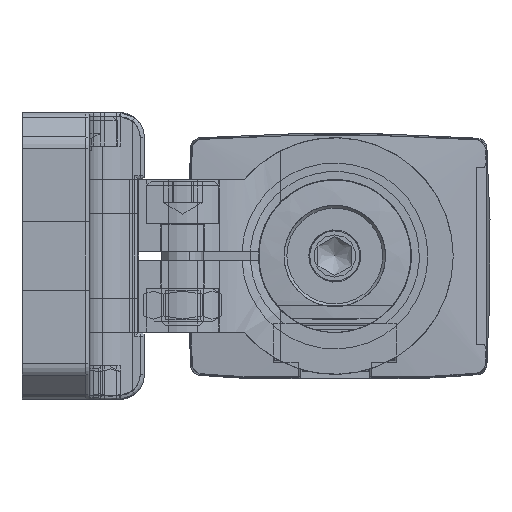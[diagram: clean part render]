
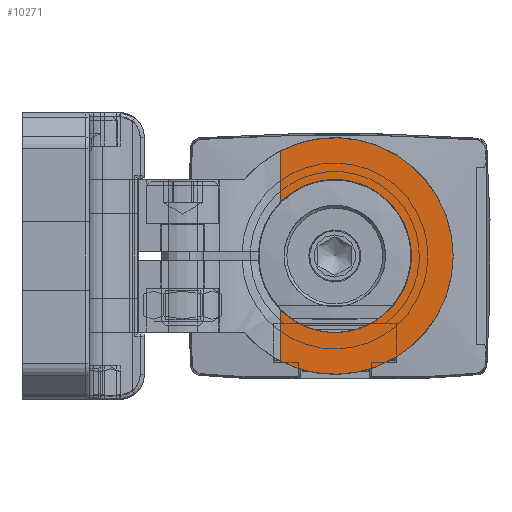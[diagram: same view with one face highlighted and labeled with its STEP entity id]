
A CAD part, left-side view. The second image highlights one B-rep face of the part: STEP entity #10271.
In plain terms, the highlighted planar face has unit normal (-1, 0, 0) as drawn and (0, 0, 1) by its records, which use the part's own axes.
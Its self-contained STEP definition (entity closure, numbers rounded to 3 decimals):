
#9511=CARTESIAN_POINT('',(-6.381,-12.461,6.));
#9512=VERTEX_POINT('',#9511);
#9529=CARTESIAN_POINT('',(-6.381,-6.418,6.));
#9530=VERTEX_POINT('',#9529);
#9531=CARTESIAN_POINT('',(-6.381,-6.418,6.));
#9532=DIRECTION('',(0.0,-1.0,0.0));
#9533=VECTOR('',#9532,6.044);
#9534=LINE('',#9531,#9533);
#9535=EDGE_CURVE('',#9530,#9512,#9534,.T.);
#10080=CARTESIAN_POINT('',(-6.381,6.418,6.));
#10081=VERTEX_POINT('',#10080);
#10095=CARTESIAN_POINT('',(-6.381,12.461,6.));
#10096=VERTEX_POINT('',#10095);
#10097=CARTESIAN_POINT('',(-6.381,6.418,6.));
#10098=DIRECTION('',(0.0,1.0,0.0));
#10099=VECTOR('',#10098,6.044);
#10100=LINE('',#10097,#10099);
#10101=EDGE_CURVE('',#10081,#10096,#10100,.T.);
#10147=CARTESIAN_POINT('',(0.0,0.0,6.));
#10148=DIRECTION('',(0.0,0.0,-1.0));
#10149=DIRECTION('',(-1.0,0.0,0.0));
#10150=AXIS2_PLACEMENT_3D('',#10147,#10148,#10149);
#10151=CIRCLE('',#10150,9.05);
#10152=EDGE_CURVE('',#10081,#9530,#10151,.T.);
#10254=CARTESIAN_POINT('',(0.,4.91,6.));
#10255=DIRECTION('',(0.0,0.0,1.0));
#10256=DIRECTION('',(1.0,0.0,0.0));
#10257=AXIS2_PLACEMENT_3D('',#10254,#10255,#10256);
#10258=PLANE('',#10257);
#10259=ORIENTED_EDGE('',*,*,#10152,.T.);
#10260=ORIENTED_EDGE('',*,*,#9535,.T.);
#10261=CARTESIAN_POINT('',(0.0,0.0,6.));
#10262=DIRECTION('',(0.0,0.0,-1.0));
#10263=DIRECTION('',(1.0,0.0,0.0));
#10264=AXIS2_PLACEMENT_3D('',#10261,#10262,#10263);
#10265=CIRCLE('',#10264,14.);
#10266=EDGE_CURVE('',#10096,#9512,#10265,.T.);
#10267=ORIENTED_EDGE('',*,*,#10266,.F.);
#10268=ORIENTED_EDGE('',*,*,#10101,.F.);
#10269=EDGE_LOOP('',(#10259,#10260,#10267,#10268));
#10270=FACE_OUTER_BOUND('',#10269,.T.);
#10271=ADVANCED_FACE('',(#10270),#10258,.T.);
